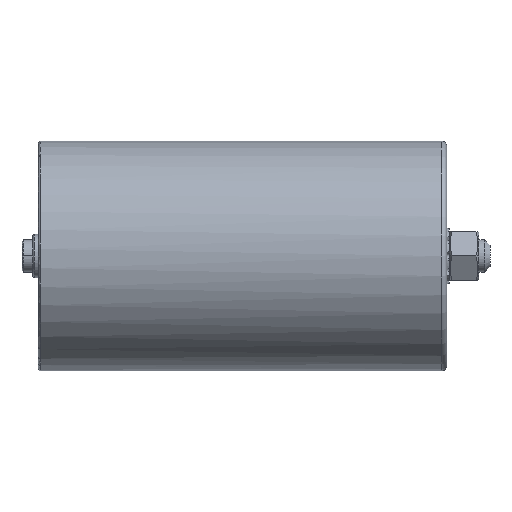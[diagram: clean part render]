
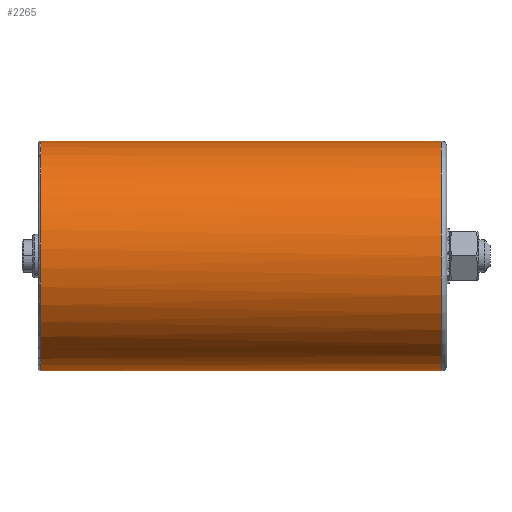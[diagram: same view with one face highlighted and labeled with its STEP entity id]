
A CAD part, left-side view. The second image highlights one B-rep face of the part: STEP entity #2265.
In plain terms, the highlighted cylindrical face has radius 42.5 mm (diameter 85 mm), a partial arc.
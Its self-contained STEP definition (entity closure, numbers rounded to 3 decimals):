
#178 = VERTEX_POINT ( 'NONE', #2222 ) ;
#417 = CIRCLE ( 'NONE', #2032, 42.5 ) ;
#675 = VERTEX_POINT ( 'NONE', #3376 ) ;
#816 = CARTESIAN_POINT ( 'NONE',  ( 0., 150., -42.5 ) ) ;
#830 = ORIENTED_EDGE ( 'NONE', *, *, #1104, .T. ) ;
#847 = CARTESIAN_POINT ( 'NONE',  ( 0., 150., 42.5 ) ) ;
#978 = CYLINDRICAL_SURFACE ( 'NONE', #2485, 42.5 ) ;
#1104 = EDGE_CURVE ( 'NONE', #178, #1667, #417, .T. ) ;
#1150 = EDGE_CURVE ( 'NONE', #1266, #1712, #3355, .T. ) ;
#1239 = ORIENTED_EDGE ( 'NONE', *, *, #3000, .T. ) ;
#1266 = VERTEX_POINT ( 'NONE', #847 ) ;
#1328 = DIRECTION ( 'NONE',  ( 0., 0., -1. ) ) ;
#1345 = CARTESIAN_POINT ( 'NONE',  ( 0., 150., 0. ) ) ;
#1390 = DIRECTION ( 'NONE',  ( 0.585, 0., 0.811 ) ) ;
#1466 = EDGE_CURVE ( 'NONE', #675, #1712, #1967, .T. ) ;
#1632 = VECTOR ( 'NONE', #2327, 1000. ) ;
#1667 = VERTEX_POINT ( 'NONE', #816 ) ;
#1712 = VERTEX_POINT ( 'NONE', #1853 ) ;
#1746 = CARTESIAN_POINT ( 'NONE',  ( 0., 0., 42.5 ) ) ;
#1758 = EDGE_LOOP ( 'NONE', ( #3981, #3993, #830, #1239, #3839 ) ) ;
#1853 = CARTESIAN_POINT ( 'NONE',  ( 0., 2., 42.5 ) ) ;
#1916 = CARTESIAN_POINT ( 'NONE',  ( 0., 0., -42.5 ) ) ;
#1949 = CARTESIAN_POINT ( 'NONE',  ( 0., 0., 0. ) ) ;
#1967 = CIRCLE ( 'NONE', #2155, 42.5 ) ;
#2006 = EDGE_CURVE ( 'NONE', #1266, #178, #3578, .T. ) ;
#2032 = AXIS2_PLACEMENT_3D ( 'NONE', #3024, #2402, #3685 ) ;
#2155 = AXIS2_PLACEMENT_3D ( 'NONE', #2905, #4107, #1328 ) ;
#2190 = DIRECTION ( 'NONE',  ( 0., 0., -1. ) ) ;
#2222 = CARTESIAN_POINT ( 'NONE',  ( -24.861, 150., -34.47 ) ) ;
#2265 = ADVANCED_FACE ( 'NONE', ( #3856 ), #978, .T. ) ;
#2327 = DIRECTION ( 'NONE',  ( 0., -1., 0. ) ) ;
#2402 = DIRECTION ( 'NONE',  ( 0., -1., 0. ) ) ;
#2485 = AXIS2_PLACEMENT_3D ( 'NONE', #1949, #2526, #2190 ) ;
#2526 = DIRECTION ( 'NONE',  ( 0., -1., 0. ) ) ;
#2683 = DIRECTION ( 'NONE',  ( 0., -1., 0. ) ) ;
#2905 = CARTESIAN_POINT ( 'NONE',  ( 0., 2., 0. ) ) ;
#3000 = EDGE_CURVE ( 'NONE', #1667, #675, #3572, .T. ) ;
#3024 = CARTESIAN_POINT ( 'NONE',  ( 0., 150., 0. ) ) ;
#3198 = DIRECTION ( 'NONE',  ( 0., -1., 0. ) ) ;
#3321 = AXIS2_PLACEMENT_3D ( 'NONE', #1345, #2683, #1390 ) ;
#3355 = LINE ( 'NONE', #1746, #1632 ) ;
#3376 = CARTESIAN_POINT ( 'NONE',  ( 0., 2., -42.5 ) ) ;
#3572 = LINE ( 'NONE', #1916, #3972 ) ;
#3578 = CIRCLE ( 'NONE', #3321, 42.5 ) ;
#3685 = DIRECTION ( 'NONE',  ( 0.585, 0., 0.811 ) ) ;
#3839 = ORIENTED_EDGE ( 'NONE', *, *, #1466, .T. ) ;
#3856 = FACE_OUTER_BOUND ( 'NONE', #1758, .T. ) ;
#3972 = VECTOR ( 'NONE', #3198, 1000. ) ;
#3981 = ORIENTED_EDGE ( 'NONE', *, *, #1150, .F. ) ;
#3993 = ORIENTED_EDGE ( 'NONE', *, *, #2006, .T. ) ;
#4107 = DIRECTION ( 'NONE',  ( 0., 1., 0. ) ) ;
